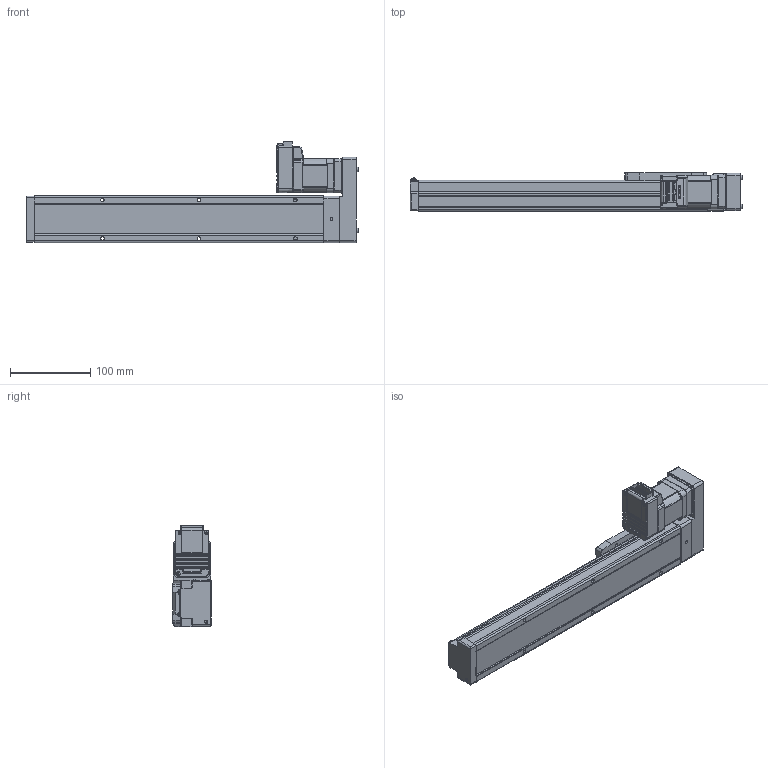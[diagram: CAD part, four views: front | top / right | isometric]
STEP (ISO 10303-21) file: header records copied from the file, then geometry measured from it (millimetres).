
FILE_DESCRIPTION (( 'STEP AP214' ), '1' );
FILE_NAME ('LEFS3(+)-25LNM1□-250-17L.STEP', '2023-05-31T05:07:19', ( '' ), ( '' ), 'SwSTEP 2.0', 'SolidWorks 2019', '' );
FILE_SCHEMA (( 'AUTOMOTIVE_DESIGN' ));
Length unit declared in the file: millimetre
Products named in the file (5): LEFS3(+)-25NM1_TABLE; CM3(+)-17L50A; LEFS3(+)-25R(L)NM1仩_BODY_250; LEFS3(+)-25R(L)NM1仩_MOTOR Flange; LEFS3(+)-25LNM1□-250-17L
Assembly tree (4 placements, depth 2):
  LEFS3(+)-25LNM1□-250-17L
    LEFS3(+)-25R(L)NM1仩_BODY_250
    LEFS3(+)-25NM1_TABLE
    LEFS3(+)-25R(L)NM1仩_MOTOR Flange
    CM3(+)-17L50A
Bounding box: 412.9 x 48 x 125.85 mm (x, y, z)
Volume: 1023341.2 mm3; surface area: 142752.7 mm2
Topology: 5 solids, 5 shells, 1015 faces, 2608 edges, 1644 vertices
Faces by surface type: plane 529, cylinder 314, cone 83, torus 39, bspline 29, sphere 21
Entity records: 41513 total; most frequent: CARTESIAN_POINT 7458, ORIENTED_EDGE 5154, DIRECTION 4972, EDGE_CURVE 2577, AXIS2_PLACEMENT_3D 1670, VERTEX_POINT 1644, LINE 1632, VECTOR 1632
